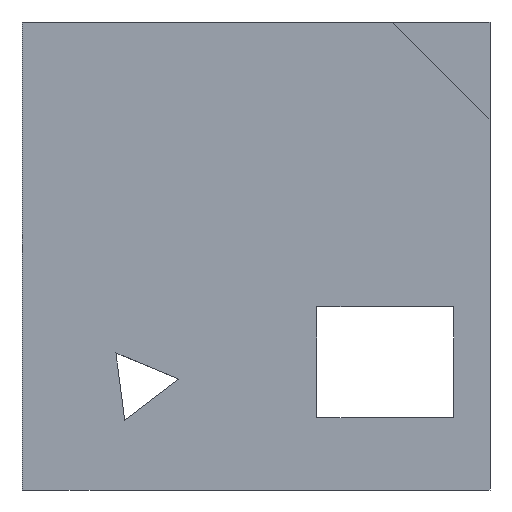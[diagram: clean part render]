
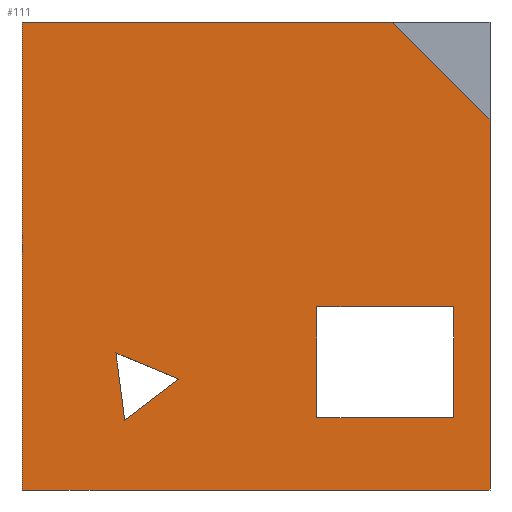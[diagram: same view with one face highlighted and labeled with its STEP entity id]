
A CAD part, left-side view. The second image highlights one B-rep face of the part: STEP entity #111.
In plain terms, the highlighted planar face has unit normal (-1, 0, 0).
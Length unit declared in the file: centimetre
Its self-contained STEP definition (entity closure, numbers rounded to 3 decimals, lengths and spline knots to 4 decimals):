
#2 = VECTOR ( 'NONE', #21, 100. ) ;
#18 = DIRECTION ( 'NONE',  ( 0., 0., 1. ) ) ;
#21 = DIRECTION ( 'NONE',  ( 0., 1., 0. ) ) ;
#36 = ORIENTED_EDGE ( 'NONE', *, *, #277, .F. ) ;
#40 = ORIENTED_EDGE ( 'NONE', *, *, #465, .F. ) ;
#49 = VECTOR ( 'NONE', #18, 100. ) ;
#50 = VERTEX_POINT ( 'NONE', #222 ) ;
#56 = CARTESIAN_POINT ( 'NONE',  ( 0., 1000., 1000. ) ) ;
#58 = DIRECTION ( 'NONE',  ( 0., 0., -1. ) ) ;
#59 = CARTESIAN_POINT ( 'NONE',  ( 0., 1000., 1000. ) ) ;
#65 = VECTOR ( 'NONE', #77, 100. ) ;
#72 = CARTESIAN_POINT ( 'NONE',  ( 0., 1000., 1000. ) ) ;
#77 = DIRECTION ( 'NONE',  ( 0., 0., -1. ) ) ;
#81 = DIRECTION ( 'NONE',  ( 0., -1., 0. ) ) ;
#85 = EDGE_CURVE ( 'NONE', #285, #514, #524, .T. ) ;
#86 = VERTEX_POINT ( 'NONE', #477 ) ;
#93 = LINE ( 'NONE', #398, #567 ) ;
#105 = EDGE_CURVE ( 'NONE', #607, #591, #430, .T. ) ;
#111 = ADVANCED_FACE ( 'NONE', ( #618, #573, #579 ), #522, .F. ) ;
#112 = LINE ( 'NONE', #56, #217 ) ;
#121 = ORIENTED_EDGE ( 'NONE', *, *, #241, .F. ) ;
#124 = CARTESIAN_POINT ( 'NONE',  ( 0., 208.3756, 1000. ) ) ;
#132 = EDGE_LOOP ( 'NONE', ( #500, #559, #121 ) ) ;
#149 = EDGE_CURVE ( 'NONE', #164, #86, #371, .T. ) ;
#153 = CARTESIAN_POINT ( 'NONE',  ( 0., 664.8339, 237.064 ) ) ;
#154 = DIRECTION ( 'NONE',  ( 1., 0., 0. ) ) ;
#157 = VECTOR ( 'NONE', #540, 100. ) ;
#164 = VERTEX_POINT ( 'NONE', #238 ) ;
#171 = DIRECTION ( 'NONE',  ( 0., -1., 0. ) ) ;
#174 = DIRECTION ( 'NONE',  ( 0., -0.794, 0.608 ) ) ;
#197 = VERTEX_POINT ( 'NONE', #287 ) ;
#212 = CARTESIAN_POINT ( 'NONE',  ( 0., 0., 791.6244 ) ) ;
#216 = CARTESIAN_POINT ( 'NONE',  ( 0., 77.6184, 391.5101 ) ) ;
#217 = VECTOR ( 'NONE', #58, 100. ) ;
#219 = CARTESIAN_POINT ( 'NONE',  ( 0., 77.6184, 154.7365 ) ) ;
#222 = CARTESIAN_POINT ( 'NONE',  ( 0., 1000., 1000. ) ) ;
#223 = LINE ( 'NONE', #381, #569 ) ;
#238 = CARTESIAN_POINT ( 'NONE',  ( 0., 77.6184, 391.5101 ) ) ;
#241 = EDGE_CURVE ( 'NONE', #403, #607, #93, .T. ) ;
#247 = ORIENTED_EDGE ( 'NONE', *, *, #149, .F. ) ;
#251 = VERTEX_POINT ( 'NONE', #306 ) ;
#265 = CARTESIAN_POINT ( 'NONE',  ( 0., 780.4109, 148.552 ) ) ;
#277 = EDGE_CURVE ( 'NONE', #86, #285, #612, .T. ) ;
#285 = VERTEX_POINT ( 'NONE', #501 ) ;
#287 = CARTESIAN_POINT ( 'NONE',  ( 0., 1000., 0. ) ) ;
#301 = ORIENTED_EDGE ( 'NONE', *, *, #630, .T. ) ;
#306 = CARTESIAN_POINT ( 'NONE',  ( 0., 208.3756, 1000. ) ) ;
#348 = CARTESIAN_POINT ( 'NONE',  ( 0., 369.9639, 154.7365 ) ) ;
#356 = EDGE_LOOP ( 'NONE', ( #366, #539, #36, #247 ) ) ;
#357 = DIRECTION ( 'NONE',  ( 0., 0.924, 0.384 ) ) ;
#366 = ORIENTED_EDGE ( 'NONE', *, *, #399, .F. ) ;
#371 = LINE ( 'NONE', #216, #2 ) ;
#380 = VECTOR ( 'NONE', #174, 100. ) ;
#381 = CARTESIAN_POINT ( 'NONE',  ( 0., 0., 1000. ) ) ;
#386 = LINE ( 'NONE', #589, #393 ) ;
#393 = VECTOR ( 'NONE', #357, 100. ) ;
#398 = CARTESIAN_POINT ( 'NONE',  ( 0., 799.2761, 292.9007 ) ) ;
#399 = EDGE_CURVE ( 'NONE', #514, #164, #543, .T. ) ;
#403 = VERTEX_POINT ( 'NONE', #435 ) ;
#407 = ORIENTED_EDGE ( 'NONE', *, *, #570, .F. ) ;
#409 = EDGE_LOOP ( 'NONE', ( #40, #652, #407, #645, #301 ) ) ;
#418 = CARTESIAN_POINT ( 'NONE',  ( 0., 780.4109, 148.552 ) ) ;
#420 = LINE ( 'NONE', #629, #622 ) ;
#421 = CARTESIAN_POINT ( 'NONE',  ( 0., 77.6184, 154.7365 ) ) ;
#430 = LINE ( 'NONE', #418, #380 ) ;
#431 = AXIS2_PLACEMENT_3D ( 'NONE', #59, #154, #576 ) ;
#432 = DIRECTION ( 'NONE',  ( 0., 0., -1. ) ) ;
#435 = CARTESIAN_POINT ( 'NONE',  ( 0., 799.2761, 292.9007 ) ) ;
#465 = EDGE_CURVE ( 'NONE', #594, #628, #223, .T. ) ;
#466 = EDGE_CURVE ( 'NONE', #591, #403, #386, .T. ) ;
#470 = CARTESIAN_POINT ( 'NONE',  ( 0., 77.6184, 154.7365 ) ) ;
#472 = DIRECTION ( 'NONE',  ( 0., -1., 0. ) ) ;
#477 = CARTESIAN_POINT ( 'NONE',  ( 0., 369.9639, 391.5101 ) ) ;
#479 = CARTESIAN_POINT ( 'NONE',  ( 0., 0., 0. ) ) ;
#480 = LINE ( 'NONE', #124, #157 ) ;
#489 = VECTOR ( 'NONE', #81, 100. ) ;
#500 = ORIENTED_EDGE ( 'NONE', *, *, #466, .F. ) ;
#501 = CARTESIAN_POINT ( 'NONE',  ( 0., 369.9639, 154.7365 ) ) ;
#506 = DIRECTION ( 'NONE',  ( 0., -0.13, -0.992 ) ) ;
#514 = VERTEX_POINT ( 'NONE', #421 ) ;
#515 = EDGE_CURVE ( 'NONE', #251, #594, #480, .T. ) ;
#522 = PLANE ( 'NONE',  #431 ) ;
#524 = LINE ( 'NONE', #470, #619 ) ;
#539 = ORIENTED_EDGE ( 'NONE', *, *, #85, .F. ) ;
#540 = DIRECTION ( 'NONE',  ( 0., -0.707, -0.707 ) ) ;
#543 = LINE ( 'NONE', #219, #49 ) ;
#547 = LINE ( 'NONE', #72, #489 ) ;
#559 = ORIENTED_EDGE ( 'NONE', *, *, #105, .F. ) ;
#567 = VECTOR ( 'NONE', #506, 100. ) ;
#569 = VECTOR ( 'NONE', #432, 100. ) ;
#570 = EDGE_CURVE ( 'NONE', #50, #251, #547, .T. ) ;
#573 = FACE_BOUND ( 'NONE', #132, .T. ) ;
#576 = DIRECTION ( 'NONE',  ( 0., 0., -1. ) ) ;
#579 = FACE_OUTER_BOUND ( 'NONE', #409, .T. ) ;
#580 = EDGE_CURVE ( 'NONE', #50, #197, #112, .T. ) ;
#589 = CARTESIAN_POINT ( 'NONE',  ( 0., 664.8339, 237.064 ) ) ;
#591 = VERTEX_POINT ( 'NONE', #153 ) ;
#594 = VERTEX_POINT ( 'NONE', #212 ) ;
#607 = VERTEX_POINT ( 'NONE', #265 ) ;
#612 = LINE ( 'NONE', #348, #65 ) ;
#618 = FACE_BOUND ( 'NONE', #356, .T. ) ;
#619 = VECTOR ( 'NONE', #472, 100. ) ;
#622 = VECTOR ( 'NONE', #171, 100. ) ;
#628 = VERTEX_POINT ( 'NONE', #479 ) ;
#629 = CARTESIAN_POINT ( 'NONE',  ( 0., 1000., 0. ) ) ;
#630 = EDGE_CURVE ( 'NONE', #197, #628, #420, .T. ) ;
#645 = ORIENTED_EDGE ( 'NONE', *, *, #580, .T. ) ;
#652 = ORIENTED_EDGE ( 'NONE', *, *, #515, .F. ) ;
